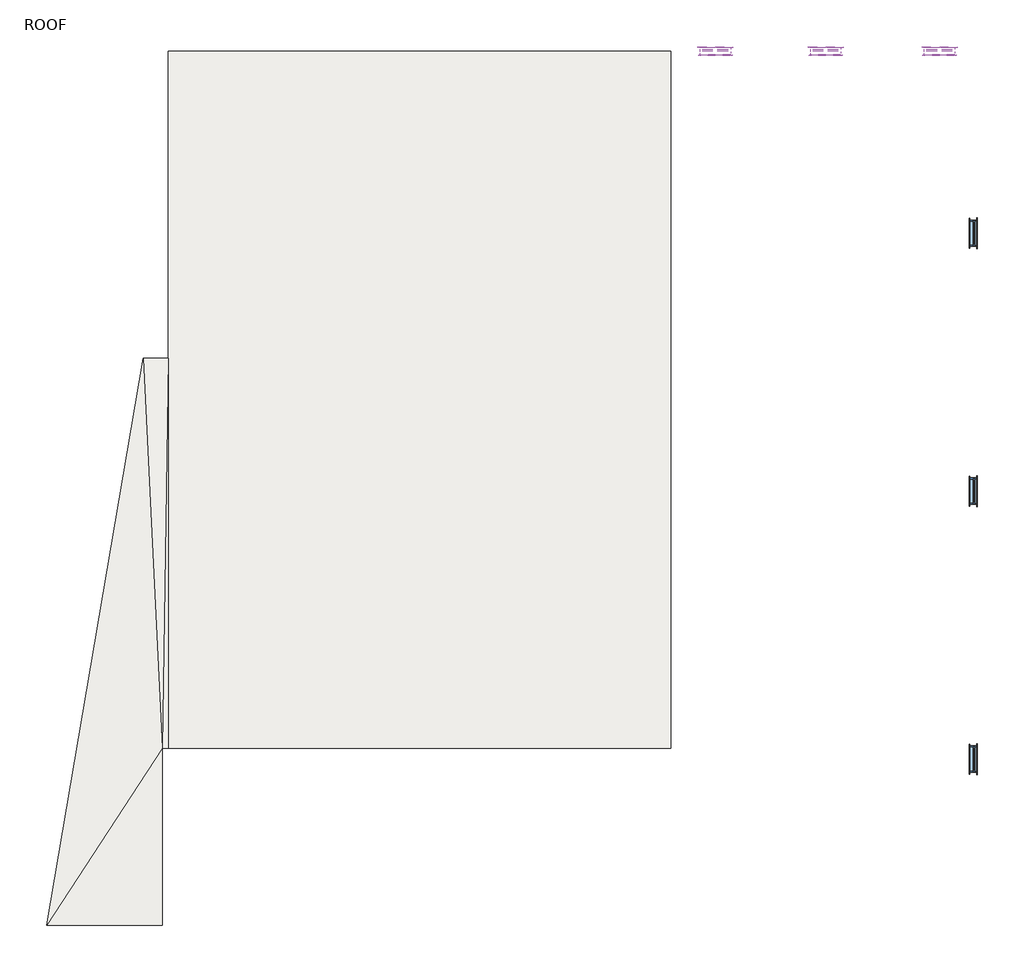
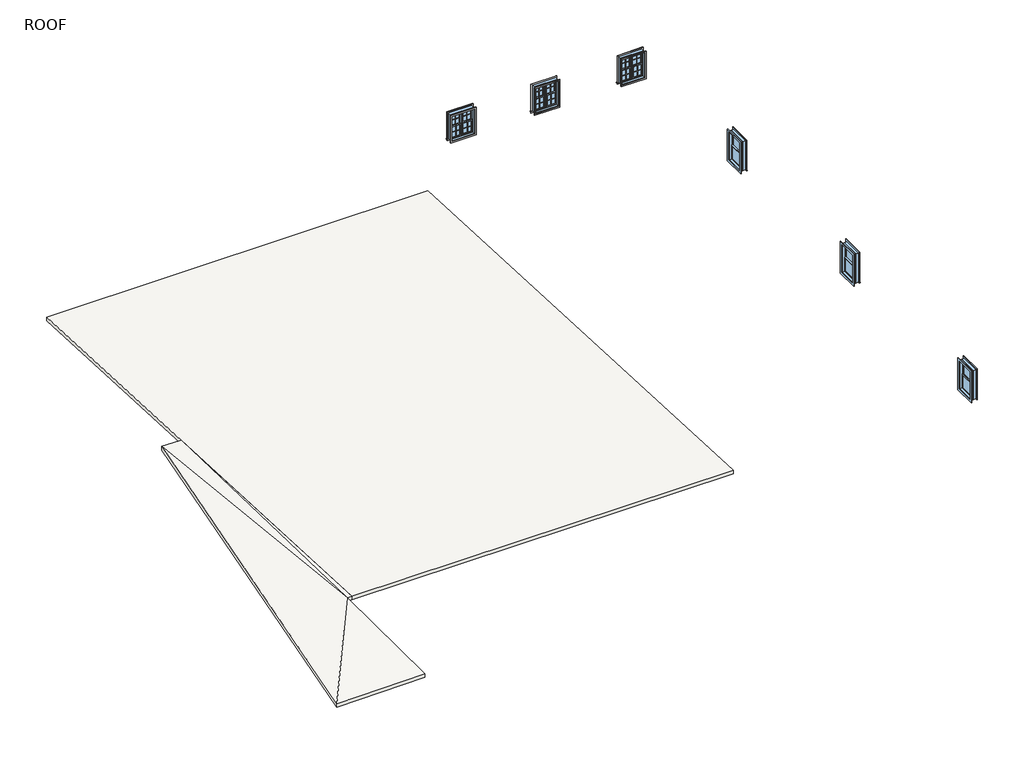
# One storey: 18 proxies, 6 windows, 2 roofs.
"""IFC4 building model written with IfcOpenShell, lengths in millimetres."""

from ifc_helpers import new_model, si_unit, frame, origin, place, context, project, spatial, polyline, outline, extrude, faceted_brep, transform, mapped, element, save
from components import muntin_pattern_2x2_muntin_pattern_2x2_af42573e, muntin_pattern_2x2_muntin_pattern_2x2_76bf3586, trim_window_exterior_flat_with_sill_1a1a26d5, trim_window_interior_flat_picture_frame_dc353545, window_3d187e63, window_33dcdc19

model = new_model("IFC4")

# Units and contexts
model_context = context("Model", 3, world=origin())
ifc_project = project(units=[si_unit("LENGTHUNIT", "METRE", prefix="MILLI")], contexts=[model_context])

# Site, building, storey
site = spatial("IfcSite", under=ifc_project)
building = spatial("IfcBuilding", under=site)
storey = spatial("IfcBuildingStorey", under=building, Name="ROOF", Elevation=7315.2)

# Proxies
placement = place(None, origin())
muntin_pattern_2x2_muntin_pattern_2x2_shape = muntin_pattern_2x2_muntin_pattern_2x2_af42573e(model_context)
element("IfcBuildingElementProxy", 1, Name="Muntin Pattern_2x2 : Muntin Pattern_2x2", ObjectType="Muntin Pattern_2x2 : Muntin Pattern_2x2", at=placement, inside=storey, context=model_context, shape_type="MappedRepresentation", body=[
    mapped(muntin_pattern_2x2_muntin_pattern_2x2_shape, transform((50288.7171125, 34405.0152655, 9394.825), x_axis=(1.0, 0.0, 0.0), y_axis=(0.0, 1.0, 0.0), z_axis=(0.0, 0.0, 1.0))),
])
element("IfcBuildingElementProxy", 2, Name="Muntin Pattern_2x2 : Muntin Pattern_2x2", ObjectType="Muntin Pattern_2x2 : Muntin Pattern_2x2", at=placement, inside=storey, context=model_context, shape_type="MappedRepresentation", body=[
    mapped(muntin_pattern_2x2_muntin_pattern_2x2_shape, transform((50288.7171125, 34360.5652655, 8915.4), x_axis=(1.0, 0.0, 0.0), y_axis=(0.0, 1.0, 0.0), z_axis=(0.0, 0.0, 1.0))),
])
element("IfcBuildingElementProxy", 3, Name="Muntin Pattern_2x2 : Muntin Pattern_2x2", ObjectType="Muntin Pattern_2x2 : Muntin Pattern_2x2", at=placement, inside=storey, context=model_context, shape_type="MappedRepresentation", body=[
    mapped(muntin_pattern_2x2_muntin_pattern_2x2_shape, transform((46859.7171125, 34405.0152655, 9394.825), x_axis=(1.0, 0.0, 0.0), y_axis=(0.0, 1.0, 0.0), z_axis=(0.0, 0.0, 1.0))),
])
element("IfcBuildingElementProxy", 4, Name="Muntin Pattern_2x2 : Muntin Pattern_2x2", ObjectType="Muntin Pattern_2x2 : Muntin Pattern_2x2", at=placement, inside=storey, context=model_context, shape_type="MappedRepresentation", body=[
    mapped(muntin_pattern_2x2_muntin_pattern_2x2_shape, transform((46859.7171125, 34360.5652655, 8915.4), x_axis=(1.0, 0.0, 0.0), y_axis=(0.0, 1.0, 0.0), z_axis=(0.0, 0.0, 1.0))),
])
element("IfcBuildingElementProxy", 5, Name="Muntin Pattern_2x2 : Muntin Pattern_2x2", ObjectType="Muntin Pattern_2x2 : Muntin Pattern_2x2", at=placement, inside=storey, context=model_context, shape_type="MappedRepresentation", body=[
    mapped(muntin_pattern_2x2_muntin_pattern_2x2_shape, transform((43532.3171125, 34405.0152655, 9394.825), x_axis=(1.0, 0.0, 0.0), y_axis=(0.0, 1.0, 0.0), z_axis=(0.0, 0.0, 1.0))),
])
element("IfcBuildingElementProxy", 6, Name="Muntin Pattern_2x2 : Muntin Pattern_2x2", ObjectType="Muntin Pattern_2x2 : Muntin Pattern_2x2", at=placement, inside=storey, context=model_context, shape_type="MappedRepresentation", body=[
    mapped(muntin_pattern_2x2_muntin_pattern_2x2_shape, transform((43532.3171125, 34360.5652655, 8915.4), x_axis=(1.0, 0.0, 0.0), y_axis=(0.0, 1.0, 0.0), z_axis=(0.0, 0.0, 1.0))),
])
muntin_pattern_2x2_muntin_pattern_2x2_2_shape = muntin_pattern_2x2_muntin_pattern_2x2_76bf3586(model_context)
element("IfcBuildingElementProxy", 7, Name="Muntin Pattern_2x2 : Muntin Pattern_2x2", ObjectType="Muntin Pattern_2x2 : Muntin Pattern_2x2", at=placement, inside=storey, context=model_context, shape_type="MappedRepresentation", body=[
    mapped(muntin_pattern_2x2_muntin_pattern_2x2_2_shape, transform((49833.1046125, 34405.0152655, 9394.825), x_axis=(-1.0, 0.0, 0.0), y_axis=(0.0, -1.0, 0.0), z_axis=(0.0, 0.0, 1.0))),
])
element("IfcBuildingElementProxy", 8, Name="Muntin Pattern_2x2 : Muntin Pattern_2x2", ObjectType="Muntin Pattern_2x2 : Muntin Pattern_2x2", at=placement, inside=storey, context=model_context, shape_type="MappedRepresentation", body=[
    mapped(muntin_pattern_2x2_muntin_pattern_2x2_2_shape, transform((49833.1046125, 34360.5652655, 8915.4), x_axis=(-1.0, 0.0, 0.0), y_axis=(0.0, -1.0, 0.0), z_axis=(0.0, 0.0, 1.0))),
])
element("IfcBuildingElementProxy", 9, Name="Muntin Pattern_2x2 : Muntin Pattern_2x2", ObjectType="Muntin Pattern_2x2 : Muntin Pattern_2x2", at=placement, inside=storey, context=model_context, shape_type="MappedRepresentation", body=[
    mapped(muntin_pattern_2x2_muntin_pattern_2x2_2_shape, transform((46404.1046125, 34405.0152655, 9394.825), x_axis=(-1.0, 0.0, 0.0), y_axis=(0.0, -1.0, 0.0), z_axis=(0.0, 0.0, 1.0))),
])
element("IfcBuildingElementProxy", 10, Name="Muntin Pattern_2x2 : Muntin Pattern_2x2", ObjectType="Muntin Pattern_2x2 : Muntin Pattern_2x2", at=placement, inside=storey, context=model_context, shape_type="MappedRepresentation", body=[
    mapped(muntin_pattern_2x2_muntin_pattern_2x2_2_shape, transform((46404.1046125, 34360.5652655, 8915.4), x_axis=(-1.0, 0.0, 0.0), y_axis=(0.0, -1.0, 0.0), z_axis=(0.0, 0.0, 1.0))),
])
element("IfcBuildingElementProxy", 11, Name="Muntin Pattern_2x2 : Muntin Pattern_2x2", ObjectType="Muntin Pattern_2x2 : Muntin Pattern_2x2", at=placement, inside=storey, context=model_context, shape_type="MappedRepresentation", body=[
    mapped(muntin_pattern_2x2_muntin_pattern_2x2_2_shape, transform((43076.7046125, 34405.0152655, 9394.825), x_axis=(-1.0, 0.0, 0.0), y_axis=(0.0, -1.0, 0.0), z_axis=(0.0, 0.0, 1.0))),
])
element("IfcBuildingElementProxy", 12, Name="Muntin Pattern_2x2 : Muntin Pattern_2x2", ObjectType="Muntin Pattern_2x2 : Muntin Pattern_2x2", at=placement, inside=storey, context=model_context, shape_type="MappedRepresentation", body=[
    mapped(muntin_pattern_2x2_muntin_pattern_2x2_2_shape, transform((43076.7046125, 34360.5652655, 8915.4), x_axis=(-1.0, 0.0, 0.0), y_axis=(0.0, -1.0, 0.0), z_axis=(0.0, 0.0, 1.0))),
])
trim_window_exterior_flat_with_sill_shape = trim_window_exterior_flat_with_sill_1a1a26d5(model_context)
element("IfcBuildingElementProxy", 13, Name="Trim-Window-Exterior-Flat : with Sill", ObjectType="Trim-Window-Exterior-Flat : with Sill", at=placement, inside=storey, context=model_context, shape_type="MappedRepresentation", body=[
    mapped(trim_window_exterior_flat_with_sill_shape, transform((50060.9108625, 34439.9402655, 9906.0), x_axis=(-1.0, 0.0, 0.0), y_axis=(0.0, 0.0, 1.0), z_axis=(0.0, 1.0, 0.0))),
])
element("IfcBuildingElementProxy", 14, Name="Trim-Window-Exterior-Flat : with Sill", ObjectType="Trim-Window-Exterior-Flat : with Sill", at=placement, inside=storey, context=model_context, shape_type="MappedRepresentation", body=[
    mapped(trim_window_exterior_flat_with_sill_shape, transform((46631.9108625, 34439.9402655, 9906.0), x_axis=(-1.0, 0.0, 0.0), y_axis=(0.0, 0.0, 1.0), z_axis=(0.0, 1.0, 0.0))),
])
element("IfcBuildingElementProxy", 15, Name="Trim-Window-Exterior-Flat : with Sill", ObjectType="Trim-Window-Exterior-Flat : with Sill", at=placement, inside=storey, context=model_context, shape_type="MappedRepresentation", body=[
    mapped(trim_window_exterior_flat_with_sill_shape, transform((43304.5108625, 34439.9402655, 9906.0), x_axis=(-1.0, 0.0, 0.0), y_axis=(0.0, 0.0, 1.0), z_axis=(0.0, 1.0, 0.0))),
])
trim_window_interior_flat_picture_frame_shape = trim_window_interior_flat_picture_frame_dc353545(model_context)
element("IfcBuildingElementProxy", 16, Name="Trim-Window-Interior-Flat : Picture Frame", ObjectType="Trim-Window-Interior-Flat : Picture Frame", at=placement, inside=storey, context=model_context, shape_type="MappedRepresentation", body=[
    mapped(trim_window_interior_flat_picture_frame_shape, transform((50060.9108625, 34236.7402655, 9906.0), x_axis=(1.0, 0.0, 0.0), y_axis=(0.0, 0.0, 1.0), z_axis=(0.0, -1.0, 0.0))),
])
element("IfcBuildingElementProxy", 17, Name="Trim-Window-Interior-Flat : Picture Frame", ObjectType="Trim-Window-Interior-Flat : Picture Frame", at=placement, inside=storey, context=model_context, shape_type="MappedRepresentation", body=[
    mapped(trim_window_interior_flat_picture_frame_shape, transform((46631.9108625, 34236.7402655, 9906.0), x_axis=(1.0, 0.0, 0.0), y_axis=(0.0, 0.0, 1.0), z_axis=(0.0, -1.0, 0.0))),
])
element("IfcBuildingElementProxy", 18, Name="Trim-Window-Interior-Flat : Picture Frame", ObjectType="Trim-Window-Interior-Flat : Picture Frame", at=placement, inside=storey, context=model_context, shape_type="MappedRepresentation", body=[
    mapped(trim_window_interior_flat_picture_frame_shape, transform((43304.5108625, 34236.7402655, 9906.0), x_axis=(1.0, 0.0, 0.0), y_axis=(0.0, 0.0, 1.0), z_axis=(0.0, -1.0, 0.0))),
])

# Roofs
element("IfcRoof", 19, ObjectType="6\" Rigid", at=placement, inside=storey, context=model_context, shape_type="SweptSolid", body=[
    extrude(outline(polyline([(34338.3402655, 7010.4), (34338.3402655, 6858.0), (13332.5402655, 7874.0), (13332.5402655, 8026.4), (34338.3402655, 7010.4)])), frame((26819.9108625, 0.0, 0.0), z_axis=(1.0, 0.0, 0.0), x_axis=(0.0, 1.0, 0.0)), (0.0, 0.0, 1.0), 15138.4),
])
element("IfcRoof", 20, ObjectType="6\" Rigid", at=placement, inside=storey, context=model_context, shape_type="Brep", body=[
    faceted_brep([(26819.9108625, 25084.4137687, 7457.990157), (26819.9108625, 25084.4137687, 7305.590157), (26054.1455845, 25084.4137687, 7305.675), (26054.1455845, 25084.4137687, 7458.075), (23146.4358625, 7998.5402655, 7886.7), (23146.4358625, 7998.5402655, 8039.1), (26626.2358625, 7998.5402655, 7924.8), (26626.2358625, 7998.5402655, 8077.2), (26626.2358625, 13332.5402655, 7880.35), (26626.2358625, 13332.5402655, 8032.75), (26819.9108625, 13332.5402655, 7874.0), (26819.9108625, 13332.5402655, 8026.4)], [[[0, 1, 2, 3]], [[3, 2, 4, 5]], [[5, 4, 6, 7]], [[7, 6, 8, 9]], [[9, 8, 10, 11]], [[11, 10, 1, 0]], [[3, 5, 9]], [[2, 8, 4]], [[5, 7, 9]], [[3, 9, 0]], [[4, 8, 6]], [[2, 1, 8]], [[9, 11, 0]], [[8, 1, 10]]]),
])

# Windows
window_shape = window_3d187e63(model_context)
element("IfcWindow", 21, ObjectType="Double Hung with Trim : 16\" x 24\"", at=placement, inside=storey, context=model_context, shape_type="MappedRepresentation", body=[
    mapped(window_shape, transform((51076.9108625, 13002.3402655, 7315.2), x_axis=(0.0, -1.0, 0.0), y_axis=(1.0, 0.0, 0.0), z_axis=(0.0, 0.0, 1.0))),
])
element("IfcWindow", 22, ObjectType="Double Hung with Trim : 16\" x 24\"", at=placement, inside=storey, context=model_context, shape_type="MappedRepresentation", body=[
    mapped(window_shape, transform((51076.9108625, 21079.5402655, 7315.2), x_axis=(0.0, -1.0, 0.0), y_axis=(1.0, 0.0, 0.0), z_axis=(0.0, 0.0, 1.0))),
])
element("IfcWindow", 23, ObjectType="Double Hung with Trim : 16\" x 24\"", at=placement, inside=storey, context=model_context, shape_type="MappedRepresentation", body=[
    mapped(window_shape, transform((51076.9108625, 28851.9402655, 7315.2), x_axis=(0.0, -1.0, 0.0), y_axis=(1.0, 0.0, 0.0), z_axis=(0.0, 0.0, 1.0))),
])
window_2_shape = window_33dcdc19(model_context)
element("IfcWindow", 24, ObjectType="Window-Double-Hung-Double : 36\" x 42\"", at=placement, inside=storey, context=model_context, shape_type="MappedRepresentation", body=[
    mapped(window_2_shape, transform((50060.9108625, 34338.3402655, 7924.8), x_axis=(1.0, 0.0, 0.0), y_axis=(0.0, 1.0, 0.0), z_axis=(0.0, 0.0, 1.0))),
])
element("IfcWindow", 25, ObjectType="Window-Double-Hung-Double : 36\" x 42\"", at=placement, inside=storey, context=model_context, shape_type="MappedRepresentation", body=[
    mapped(window_2_shape, transform((46631.9108625, 34338.3402655, 7924.8), x_axis=(1.0, 0.0, 0.0), y_axis=(0.0, 1.0, 0.0), z_axis=(0.0, 0.0, 1.0))),
])
element("IfcWindow", 26, ObjectType="Window-Double-Hung-Double : 36\" x 42\"", at=placement, inside=storey, context=model_context, shape_type="MappedRepresentation", body=[
    mapped(window_2_shape, transform((43304.5108625, 34338.3402655, 7924.8), x_axis=(1.0, 0.0, 0.0), y_axis=(0.0, 1.0, 0.0), z_axis=(0.0, 0.0, 1.0))),
])

save(model, "model.ifc")
